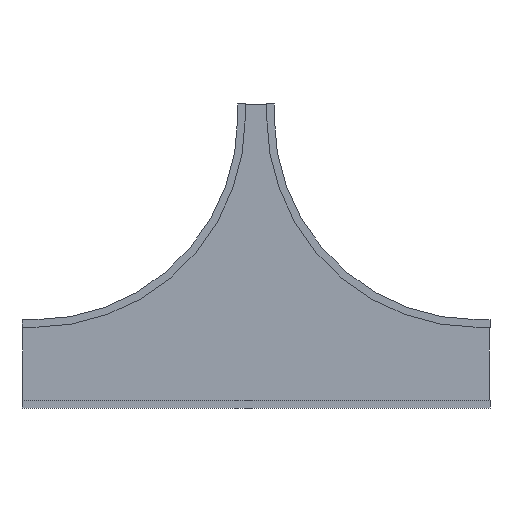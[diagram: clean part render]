
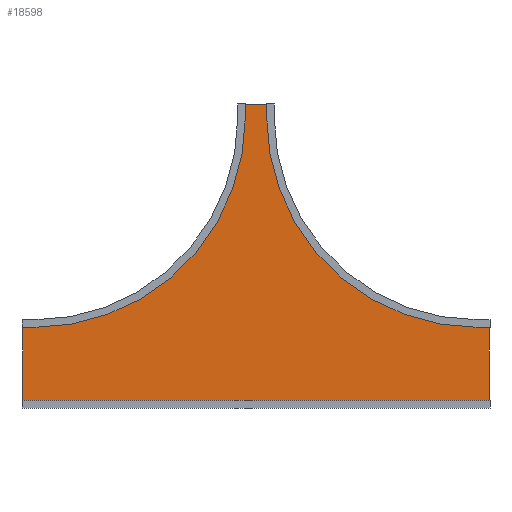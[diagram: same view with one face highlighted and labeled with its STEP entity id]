
A CAD part, front view. The second image highlights one B-rep face of the part: STEP entity #18598.
In plain terms, the highlighted planar face has unit normal (0, -1, 0).
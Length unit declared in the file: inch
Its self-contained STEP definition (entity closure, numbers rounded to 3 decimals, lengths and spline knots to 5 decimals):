
#18407=DIRECTION('',(1.,0.,0.));
#18408=VECTOR('',#18407,5.875);
#18409=CARTESIAN_POINT('',(-2.9375,0.,0.));
#18410=LINE('',#18409,#18408);
#18411=DIRECTION('',(0.,0.,-1.));
#18412=VECTOR('',#18411,2.875);
#18413=CARTESIAN_POINT('',(2.9375,0.,0.));
#18414=LINE('',#18413,#18412);
#18415=CARTESIAN_POINT('',(51.,0.,-2.875));
#18416=DIRECTION('',(0.,-1.,0.));
#18417=DIRECTION('',(-1.,0.,0.));
#18418=AXIS2_PLACEMENT_3D('',#18415,#18416,#18417);
#18420=DIRECTION('',(1.,0.,0.));
#18421=VECTOR('',#18420,2.875);
#18422=CARTESIAN_POINT('',(51.,0.,-50.9375));
#18423=LINE('',#18422,#18421);
#18424=DIRECTION('',(0.,0.,-1.));
#18425=VECTOR('',#18424,17.875);
#18426=CARTESIAN_POINT('',(53.875,0.,-50.9375));
#18427=LINE('',#18426,#18425);
#18428=DIRECTION('',(-1.,0.,0.));
#18429=VECTOR('',#18428,107.75);
#18430=CARTESIAN_POINT('',(53.875,0.,-68.8125));
#18431=LINE('',#18430,#18429);
#18432=DIRECTION('',(0.,0.,1.));
#18433=VECTOR('',#18432,17.875);
#18434=CARTESIAN_POINT('',(-53.875,0.,-68.8125));
#18435=LINE('',#18434,#18433);
#18436=DIRECTION('',(1.,0.,0.));
#18437=VECTOR('',#18436,2.875);
#18438=CARTESIAN_POINT('',(-53.875,0.,-50.9375));
#18439=LINE('',#18438,#18437);
#18440=CARTESIAN_POINT('',(-51.,0.,-2.875));
#18441=DIRECTION('',(0.,-1.,0.));
#18442=DIRECTION('',(0.,0.,-1.));
#18443=AXIS2_PLACEMENT_3D('',#18440,#18441,#18442);
#18445=DIRECTION('',(0.,0.,1.));
#18446=VECTOR('',#18445,2.875);
#18447=CARTESIAN_POINT('',(-2.9375,0.,-2.875));
#18448=LINE('',#18447,#18446);
#18531=CARTESIAN_POINT('',(-2.9375,0.,0.));
#18532=CARTESIAN_POINT('',(2.9375,0.,0.));
#18533=VERTEX_POINT('',#18531);
#18534=VERTEX_POINT('',#18532);
#18535=CARTESIAN_POINT('',(2.9375,0.,-2.875));
#18536=VERTEX_POINT('',#18535);
#18537=CARTESIAN_POINT('',(51.,0.,-50.9375));
#18538=VERTEX_POINT('',#18537);
#18539=CARTESIAN_POINT('',(53.875,0.,-50.9375));
#18540=VERTEX_POINT('',#18539);
#18541=CARTESIAN_POINT('',(53.875,0.,-68.8125));
#18542=VERTEX_POINT('',#18541);
#18543=CARTESIAN_POINT('',(-53.875,0.,-68.8125));
#18544=VERTEX_POINT('',#18543);
#18545=CARTESIAN_POINT('',(-53.875,0.,-50.9375));
#18546=VERTEX_POINT('',#18545);
#18547=CARTESIAN_POINT('',(-51.,0.,-50.9375));
#18548=VERTEX_POINT('',#18547);
#18549=CARTESIAN_POINT('',(-2.9375,0.,-2.875));
#18550=VERTEX_POINT('',#18549);
#18571=CARTESIAN_POINT('',(0.,0.,0.));
#18572=DIRECTION('',(0.,1.,0.));
#18573=DIRECTION('',(1.,0.,0.));
#18574=AXIS2_PLACEMENT_3D('',#18571,#18572,#18573);
#18575=PLANE('',#18574);
#18577=ORIENTED_EDGE('',*,*,#18576,.T.);
#18579=ORIENTED_EDGE('',*,*,#18578,.T.);
#18581=ORIENTED_EDGE('',*,*,#18580,.T.);
#18583=ORIENTED_EDGE('',*,*,#18582,.T.);
#18585=ORIENTED_EDGE('',*,*,#18584,.T.);
#18587=ORIENTED_EDGE('',*,*,#18586,.T.);
#18589=ORIENTED_EDGE('',*,*,#18588,.T.);
#18591=ORIENTED_EDGE('',*,*,#18590,.T.);
#18593=ORIENTED_EDGE('',*,*,#18592,.T.);
#18595=ORIENTED_EDGE('',*,*,#18594,.T.);
#18596=EDGE_LOOP('',(#18577,#18579,#18581,#18583,#18585,#18587,#18589,#18591,
#18593,#18595));
#18597=FACE_OUTER_BOUND('',#18596,.F.);
#18598=ADVANCED_FACE('',(#18597),#18575,.F.);
#18419=CIRCLE('',#18418,48.0625);
#18444=CIRCLE('',#18443,48.0625);
#18576=EDGE_CURVE('',#18533,#18534,#18410,.T.);
#18578=EDGE_CURVE('',#18534,#18536,#18414,.T.);
#18580=EDGE_CURVE('',#18536,#18538,#18419,.T.);
#18582=EDGE_CURVE('',#18538,#18540,#18423,.T.);
#18584=EDGE_CURVE('',#18540,#18542,#18427,.T.);
#18586=EDGE_CURVE('',#18542,#18544,#18431,.T.);
#18588=EDGE_CURVE('',#18544,#18546,#18435,.T.);
#18590=EDGE_CURVE('',#18546,#18548,#18439,.T.);
#18592=EDGE_CURVE('',#18548,#18550,#18444,.T.);
#18594=EDGE_CURVE('',#18550,#18533,#18448,.T.);
